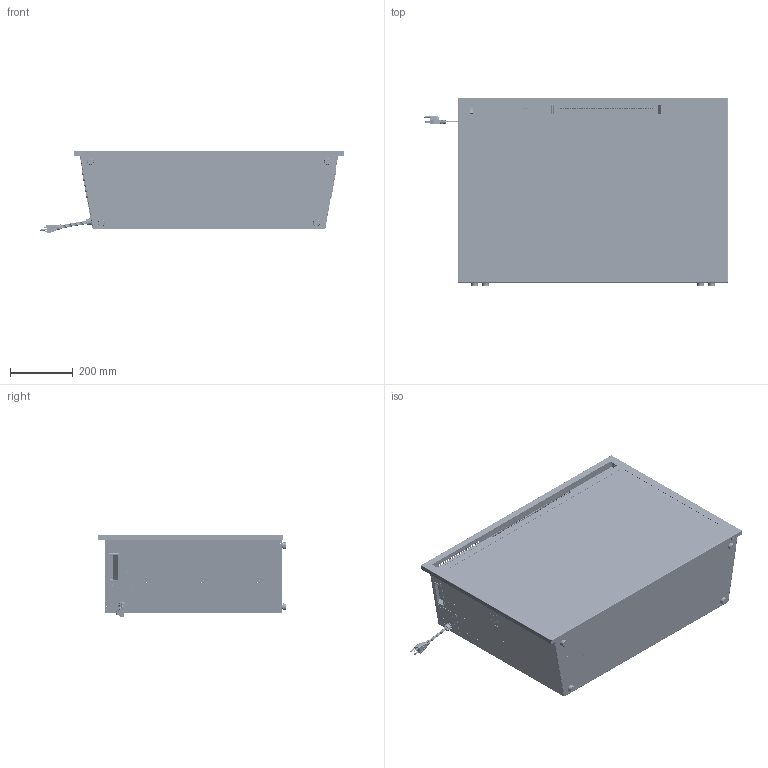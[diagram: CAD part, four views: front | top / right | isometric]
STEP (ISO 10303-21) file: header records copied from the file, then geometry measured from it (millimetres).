
FILE_DESCRIPTION((''),'2;1');
FILE_NAME('MF36_ASM','2025-10-13T15:52:51',('Administrator'),(''),'CREO PARAMETRIC BY PTC INC, 2022073','CREO PARAMETRIC BY PTC INC, 2022073','');
FILE_SCHEMA(('CONFIG_CONTROL_DESIGN','SHAPE_APPEARANCE_LAYERS_GROUPS'));
Products named in the file (1): MF36_ASM
Bounding box: 964.87 x 596.8 x 261.53 mm (x, y, z)
Volume: 9544330.4 mm3; surface area: 6291248.4 mm2
Topology: 21 solids, 181 shells, 9548 faces, 29230 edges, 19814 vertices
Faces by surface type: plane 6254, cylinder 2882, sphere 137, bspline 104, cone 83, torus 78, extrusion 10
Entity records: 402430 total; most frequent: CARTESIAN_POINT 83268, ORIENTED_EDGE 57037, DIRECTION 51401, EDGE_CURVE 29124, VERTEX_POINT 19814, VECTOR 19589, LINE 19579, AXIS2_PLACEMENT_3D 15906
